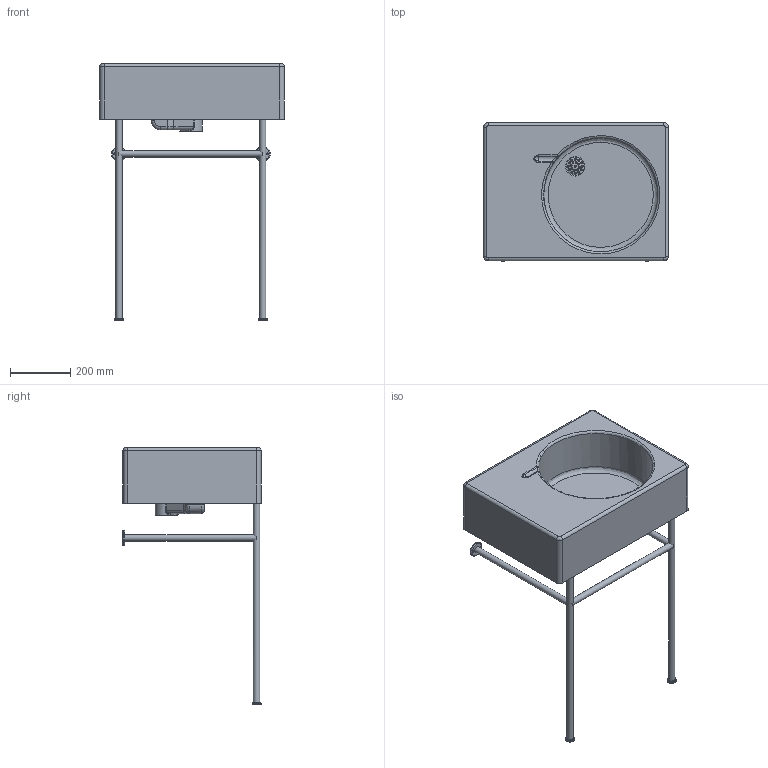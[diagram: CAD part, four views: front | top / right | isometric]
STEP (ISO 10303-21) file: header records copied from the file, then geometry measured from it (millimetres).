
FILE_DESCRIPTION((''),'2;1');
FILE_NAME('C:\Dokumente und Einstellungen\Huebner\Eigene Dateien\PRIVAT3\3D\DESIGN VARIATIONEN\DES_VAR_STEP\068560_0030591.stp','2008-02-05T11:59:00',('Huebner'),(''),'Autodesk Inventor 11','Autodesk Inventor 11','');
FILE_SCHEMA(('AUTOMOTIVE_DESIGN { 1 0 10303 214 1 1 1 1 }'));
Length unit declared in the file: millimetre
Products named in the file (7): 068560_0030591; 068560; 0030591; Rohr21_670; Rohr21_458; Rohr21_439; Stopfen._068560
Assembly tree (8 placements, depth 3):
  068560_0030591
    068560
    0030591
      Rohr21_670  x2
      Rohr21_458
      Rohr21_439  x2
    Stopfen._068560
Bounding box: 615 x 460 x 855 mm (x, y, z)
Volume: 14146380.5 mm3; surface area: 1901827.3 mm2
Topology: 7 solids, 7 shells, 209 faces, 512 edges, 319 vertices
Faces by surface type: cylinder 89, plane 52, bspline 49, torus 18, cone 1
Full cylindrical faces by diameter (mm): 5 x21, 6 x4, 15 x2, 18 x1, 21 x5, 30 x2, 50 x2, 52 x1, 60 x1, 380 x1
Entity records: 19884 total; most frequent: CARTESIAN_POINT 15460, DIRECTION 866, ORIENTED_EDGE 832, EDGE_CURVE 416, AXIS2_PLACEMENT_3D 368, EDGE_LOOP 291, VERTEX_POINT 275, CIRCLE 207
